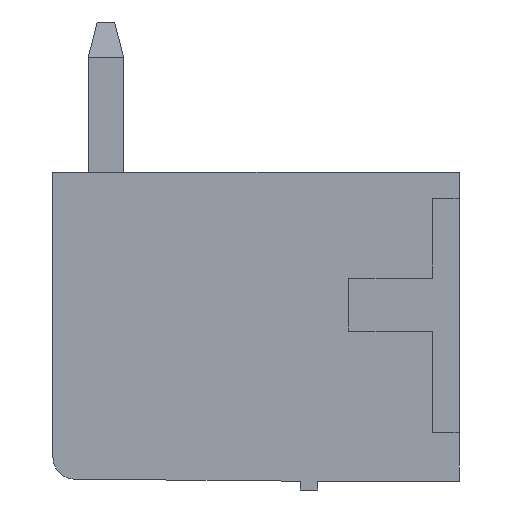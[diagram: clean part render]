
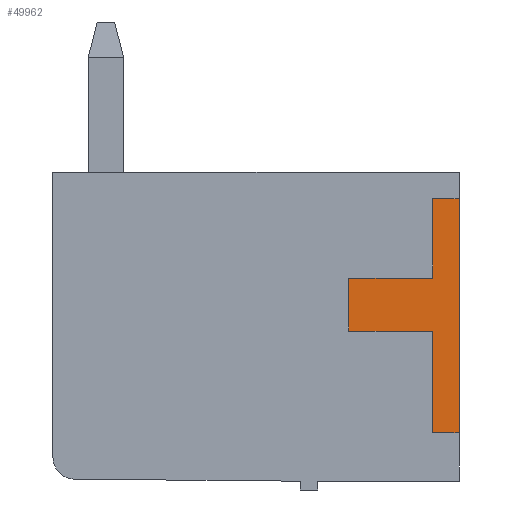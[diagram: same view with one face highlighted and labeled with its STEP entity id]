
A CAD part, left-side view. The second image highlights one B-rep face of the part: STEP entity #49962.
In plain terms, the highlighted planar face has unit normal (-1, 0, 0).
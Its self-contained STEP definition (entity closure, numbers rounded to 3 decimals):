
#2291 = PLANE('',#2292);
#2292 = AXIS2_PLACEMENT_3D('',#2293,#2294,#2295);
#2293 = CARTESIAN_POINT('',(0.,0.,7.));
#2294 = DIRECTION('',(0.,-1.,0.));
#2295 = DIRECTION('',(0.,0.,-1.));
#2780 = VERTEX_POINT('',#2781);
#2781 = CARTESIAN_POINT('',(-0.2,0.,1.1));
#2795 = PLANE('',#2796);
#2796 = AXIS2_PLACEMENT_3D('',#2797,#2798,#2799);
#2797 = CARTESIAN_POINT('',(0.,0.6,1.1));
#2798 = DIRECTION('',(0.,0.,-1.));
#2799 = DIRECTION('',(0.,-1.,0.));
#2807 = EDGE_CURVE('',#2780,#2808,#2810,.T.);
#2808 = VERTEX_POINT('',#2809);
#2809 = CARTESIAN_POINT('',(-0.2,0.,6.4));
#2810 = SURFACE_CURVE('',#2811,(#2815,#2822),.PCURVE_S1.);
#2811 = LINE('',#2812,#2813);
#2812 = CARTESIAN_POINT('',(-0.2,0.,1.1));
#2813 = VECTOR('',#2814,1.);
#2814 = DIRECTION('',(0.,0.,1.));
#2815 = PCURVE('',#2291,#2816);
#2816 = DEFINITIONAL_REPRESENTATION('',(#2817),#2821);
#2817 = LINE('',#2818,#2819);
#2818 = CARTESIAN_POINT('',(5.9,-0.2));
#2819 = VECTOR('',#2820,1.);
#2820 = DIRECTION('',(-1.,0.));
#2821 = ( GEOMETRIC_REPRESENTATION_CONTEXT(2) 
PARAMETRIC_REPRESENTATION_CONTEXT() REPRESENTATION_CONTEXT('2D SPACE',''
  ) );
#2822 = PCURVE('',#2823,#2828);
#2823 = PLANE('',#2824);
#2824 = AXIS2_PLACEMENT_3D('',#2825,#2826,#2827);
#2825 = CARTESIAN_POINT('',(-0.2,0.,0.));
#2826 = DIRECTION('',(-1.,0.,0.));
#2827 = DIRECTION('',(0.,0.,1.));
#2828 = DEFINITIONAL_REPRESENTATION('',(#2829),#2833);
#2829 = LINE('',#2830,#2831);
#2830 = CARTESIAN_POINT('',(1.1,0.));
#2831 = VECTOR('',#2832,1.);
#2832 = DIRECTION('',(1.,0.));
#2833 = ( GEOMETRIC_REPRESENTATION_CONTEXT(2) 
PARAMETRIC_REPRESENTATION_CONTEXT() REPRESENTATION_CONTEXT('2D SPACE',''
  ) );
#2851 = PLANE('',#2852);
#2852 = AXIS2_PLACEMENT_3D('',#2853,#2854,#2855);
#2853 = CARTESIAN_POINT('',(0.,0.,6.4));
#2854 = DIRECTION('',(0.,0.,1.));
#2855 = DIRECTION('',(0.,1.,0.));
#18312 = PLANE('',#18313);
#18313 = AXIS2_PLACEMENT_3D('',#18314,#18315,#18316);
#18314 = CARTESIAN_POINT('',(0.,0.6,6.4));
#18315 = DIRECTION('',(0.,1.,0.));
#18316 = DIRECTION('',(0.,0.,-1.));
#18340 = PLANE('',#18341);
#18341 = AXIS2_PLACEMENT_3D('',#18342,#18343,#18344);
#18342 = CARTESIAN_POINT('',(0.,0.6,4.6));
#18343 = DIRECTION('',(0.,0.,1.));
#18344 = DIRECTION('',(0.,1.,0.));
#18368 = PLANE('',#18369);
#18369 = AXIS2_PLACEMENT_3D('',#18370,#18371,#18372);
#18370 = CARTESIAN_POINT('',(0.,2.5,4.6));
#18371 = DIRECTION('',(0.,1.,0.));
#18372 = DIRECTION('',(0.,0.,-1.));
#18396 = PLANE('',#18397);
#18397 = AXIS2_PLACEMENT_3D('',#18398,#18399,#18400);
#18398 = CARTESIAN_POINT('',(0.,2.5,3.4));
#18399 = DIRECTION('',(0.,0.,-1.));
#18400 = DIRECTION('',(0.,-1.,0.));
#18424 = PLANE('',#18425);
#18425 = AXIS2_PLACEMENT_3D('',#18426,#18427,#18428);
#18426 = CARTESIAN_POINT('',(0.,0.6,3.4));
#18427 = DIRECTION('',(0.,1.,0.));
#18428 = DIRECTION('',(0.,0.,-1.));
#49919 = EDGE_CURVE('',#2808,#49920,#49922,.T.);
#49920 = VERTEX_POINT('',#49921);
#49921 = CARTESIAN_POINT('',(-0.2,0.6,6.4));
#49922 = SURFACE_CURVE('',#49923,(#49927,#49934),.PCURVE_S1.);
#49923 = LINE('',#49924,#49925);
#49924 = CARTESIAN_POINT('',(-0.2,0.,6.4));
#49925 = VECTOR('',#49926,1.);
#49926 = DIRECTION('',(0.,1.,0.));
#49927 = PCURVE('',#2851,#49928);
#49928 = DEFINITIONAL_REPRESENTATION('',(#49929),#49933);
#49929 = LINE('',#49930,#49931);
#49930 = CARTESIAN_POINT('',(0.,0.2));
#49931 = VECTOR('',#49932,1.);
#49932 = DIRECTION('',(1.,0.));
#49933 = ( GEOMETRIC_REPRESENTATION_CONTEXT(2) 
PARAMETRIC_REPRESENTATION_CONTEXT() REPRESENTATION_CONTEXT('2D SPACE',''
  ) );
#49934 = PCURVE('',#2823,#49935);
#49935 = DEFINITIONAL_REPRESENTATION('',(#49936),#49940);
#49936 = LINE('',#49937,#49938);
#49937 = CARTESIAN_POINT('',(6.4,0.));
#49938 = VECTOR('',#49939,1.);
#49939 = DIRECTION('',(0.,1.));
#49940 = ( GEOMETRIC_REPRESENTATION_CONTEXT(2) 
PARAMETRIC_REPRESENTATION_CONTEXT() REPRESENTATION_CONTEXT('2D SPACE',''
  ) );
#49962 = ADVANCED_FACE('',(#49963),#2823,.T.);
#49963 = FACE_BOUND('',#49964,.F.);
#49964 = EDGE_LOOP('',(#49965,#49966,#49967,#49990,#50013,#50036,#50059,
    #50082));
#49965 = ORIENTED_EDGE('',*,*,#49919,.F.);
#49966 = ORIENTED_EDGE('',*,*,#2807,.F.);
#49967 = ORIENTED_EDGE('',*,*,#49968,.F.);
#49968 = EDGE_CURVE('',#49969,#2780,#49971,.T.);
#49969 = VERTEX_POINT('',#49970);
#49970 = CARTESIAN_POINT('',(-0.2,0.6,1.1));
#49971 = SURFACE_CURVE('',#49972,(#49976,#49983),.PCURVE_S1.);
#49972 = LINE('',#49973,#49974);
#49973 = CARTESIAN_POINT('',(-0.2,0.6,1.1));
#49974 = VECTOR('',#49975,1.);
#49975 = DIRECTION('',(0.,-1.,0.));
#49976 = PCURVE('',#2823,#49977);
#49977 = DEFINITIONAL_REPRESENTATION('',(#49978),#49982);
#49978 = LINE('',#49979,#49980);
#49979 = CARTESIAN_POINT('',(1.1,0.6));
#49980 = VECTOR('',#49981,1.);
#49981 = DIRECTION('',(0.,-1.));
#49982 = ( GEOMETRIC_REPRESENTATION_CONTEXT(2) 
PARAMETRIC_REPRESENTATION_CONTEXT() REPRESENTATION_CONTEXT('2D SPACE',''
  ) );
#49983 = PCURVE('',#2795,#49984);
#49984 = DEFINITIONAL_REPRESENTATION('',(#49985),#49989);
#49985 = LINE('',#49986,#49987);
#49986 = CARTESIAN_POINT('',(0.,0.2));
#49987 = VECTOR('',#49988,1.);
#49988 = DIRECTION('',(1.,0.));
#49989 = ( GEOMETRIC_REPRESENTATION_CONTEXT(2) 
PARAMETRIC_REPRESENTATION_CONTEXT() REPRESENTATION_CONTEXT('2D SPACE',''
  ) );
#49990 = ORIENTED_EDGE('',*,*,#49991,.F.);
#49991 = EDGE_CURVE('',#49992,#49969,#49994,.T.);
#49992 = VERTEX_POINT('',#49993);
#49993 = CARTESIAN_POINT('',(-0.2,0.6,3.4));
#49994 = SURFACE_CURVE('',#49995,(#49999,#50006),.PCURVE_S1.);
#49995 = LINE('',#49996,#49997);
#49996 = CARTESIAN_POINT('',(-0.2,0.6,3.4));
#49997 = VECTOR('',#49998,1.);
#49998 = DIRECTION('',(0.,0.,-1.));
#49999 = PCURVE('',#2823,#50000);
#50000 = DEFINITIONAL_REPRESENTATION('',(#50001),#50005);
#50001 = LINE('',#50002,#50003);
#50002 = CARTESIAN_POINT('',(3.4,0.6));
#50003 = VECTOR('',#50004,1.);
#50004 = DIRECTION('',(-1.,0.));
#50005 = ( GEOMETRIC_REPRESENTATION_CONTEXT(2) 
PARAMETRIC_REPRESENTATION_CONTEXT() REPRESENTATION_CONTEXT('2D SPACE',''
  ) );
#50006 = PCURVE('',#18424,#50007);
#50007 = DEFINITIONAL_REPRESENTATION('',(#50008),#50012);
#50008 = LINE('',#50009,#50010);
#50009 = CARTESIAN_POINT('',(0.,0.2));
#50010 = VECTOR('',#50011,1.);
#50011 = DIRECTION('',(1.,0.));
#50012 = ( GEOMETRIC_REPRESENTATION_CONTEXT(2) 
PARAMETRIC_REPRESENTATION_CONTEXT() REPRESENTATION_CONTEXT('2D SPACE',''
  ) );
#50013 = ORIENTED_EDGE('',*,*,#50014,.F.);
#50014 = EDGE_CURVE('',#50015,#49992,#50017,.T.);
#50015 = VERTEX_POINT('',#50016);
#50016 = CARTESIAN_POINT('',(-0.2,2.5,3.4));
#50017 = SURFACE_CURVE('',#50018,(#50022,#50029),.PCURVE_S1.);
#50018 = LINE('',#50019,#50020);
#50019 = CARTESIAN_POINT('',(-0.2,2.5,3.4));
#50020 = VECTOR('',#50021,1.);
#50021 = DIRECTION('',(0.,-1.,0.));
#50022 = PCURVE('',#2823,#50023);
#50023 = DEFINITIONAL_REPRESENTATION('',(#50024),#50028);
#50024 = LINE('',#50025,#50026);
#50025 = CARTESIAN_POINT('',(3.4,2.5));
#50026 = VECTOR('',#50027,1.);
#50027 = DIRECTION('',(0.,-1.));
#50028 = ( GEOMETRIC_REPRESENTATION_CONTEXT(2) 
PARAMETRIC_REPRESENTATION_CONTEXT() REPRESENTATION_CONTEXT('2D SPACE',''
  ) );
#50029 = PCURVE('',#18396,#50030);
#50030 = DEFINITIONAL_REPRESENTATION('',(#50031),#50035);
#50031 = LINE('',#50032,#50033);
#50032 = CARTESIAN_POINT('',(0.,0.2));
#50033 = VECTOR('',#50034,1.);
#50034 = DIRECTION('',(1.,0.));
#50035 = ( GEOMETRIC_REPRESENTATION_CONTEXT(2) 
PARAMETRIC_REPRESENTATION_CONTEXT() REPRESENTATION_CONTEXT('2D SPACE',''
  ) );
#50036 = ORIENTED_EDGE('',*,*,#50037,.F.);
#50037 = EDGE_CURVE('',#50038,#50015,#50040,.T.);
#50038 = VERTEX_POINT('',#50039);
#50039 = CARTESIAN_POINT('',(-0.2,2.5,4.6));
#50040 = SURFACE_CURVE('',#50041,(#50045,#50052),.PCURVE_S1.);
#50041 = LINE('',#50042,#50043);
#50042 = CARTESIAN_POINT('',(-0.2,2.5,4.6));
#50043 = VECTOR('',#50044,1.);
#50044 = DIRECTION('',(0.,0.,-1.));
#50045 = PCURVE('',#2823,#50046);
#50046 = DEFINITIONAL_REPRESENTATION('',(#50047),#50051);
#50047 = LINE('',#50048,#50049);
#50048 = CARTESIAN_POINT('',(4.6,2.5));
#50049 = VECTOR('',#50050,1.);
#50050 = DIRECTION('',(-1.,0.));
#50051 = ( GEOMETRIC_REPRESENTATION_CONTEXT(2) 
PARAMETRIC_REPRESENTATION_CONTEXT() REPRESENTATION_CONTEXT('2D SPACE',''
  ) );
#50052 = PCURVE('',#18368,#50053);
#50053 = DEFINITIONAL_REPRESENTATION('',(#50054),#50058);
#50054 = LINE('',#50055,#50056);
#50055 = CARTESIAN_POINT('',(0.,0.2));
#50056 = VECTOR('',#50057,1.);
#50057 = DIRECTION('',(1.,0.));
#50058 = ( GEOMETRIC_REPRESENTATION_CONTEXT(2) 
PARAMETRIC_REPRESENTATION_CONTEXT() REPRESENTATION_CONTEXT('2D SPACE',''
  ) );
#50059 = ORIENTED_EDGE('',*,*,#50060,.F.);
#50060 = EDGE_CURVE('',#50061,#50038,#50063,.T.);
#50061 = VERTEX_POINT('',#50062);
#50062 = CARTESIAN_POINT('',(-0.2,0.6,4.6));
#50063 = SURFACE_CURVE('',#50064,(#50068,#50075),.PCURVE_S1.);
#50064 = LINE('',#50065,#50066);
#50065 = CARTESIAN_POINT('',(-0.2,0.6,4.6));
#50066 = VECTOR('',#50067,1.);
#50067 = DIRECTION('',(0.,1.,0.));
#50068 = PCURVE('',#2823,#50069);
#50069 = DEFINITIONAL_REPRESENTATION('',(#50070),#50074);
#50070 = LINE('',#50071,#50072);
#50071 = CARTESIAN_POINT('',(4.6,0.6));
#50072 = VECTOR('',#50073,1.);
#50073 = DIRECTION('',(0.,1.));
#50074 = ( GEOMETRIC_REPRESENTATION_CONTEXT(2) 
PARAMETRIC_REPRESENTATION_CONTEXT() REPRESENTATION_CONTEXT('2D SPACE',''
  ) );
#50075 = PCURVE('',#18340,#50076);
#50076 = DEFINITIONAL_REPRESENTATION('',(#50077),#50081);
#50077 = LINE('',#50078,#50079);
#50078 = CARTESIAN_POINT('',(0.,0.2));
#50079 = VECTOR('',#50080,1.);
#50080 = DIRECTION('',(1.,0.));
#50081 = ( GEOMETRIC_REPRESENTATION_CONTEXT(2) 
PARAMETRIC_REPRESENTATION_CONTEXT() REPRESENTATION_CONTEXT('2D SPACE',''
  ) );
#50082 = ORIENTED_EDGE('',*,*,#50083,.F.);
#50083 = EDGE_CURVE('',#49920,#50061,#50084,.T.);
#50084 = SURFACE_CURVE('',#50085,(#50089,#50096),.PCURVE_S1.);
#50085 = LINE('',#50086,#50087);
#50086 = CARTESIAN_POINT('',(-0.2,0.6,6.4));
#50087 = VECTOR('',#50088,1.);
#50088 = DIRECTION('',(0.,0.,-1.));
#50089 = PCURVE('',#2823,#50090);
#50090 = DEFINITIONAL_REPRESENTATION('',(#50091),#50095);
#50091 = LINE('',#50092,#50093);
#50092 = CARTESIAN_POINT('',(6.4,0.6));
#50093 = VECTOR('',#50094,1.);
#50094 = DIRECTION('',(-1.,0.));
#50095 = ( GEOMETRIC_REPRESENTATION_CONTEXT(2) 
PARAMETRIC_REPRESENTATION_CONTEXT() REPRESENTATION_CONTEXT('2D SPACE',''
  ) );
#50096 = PCURVE('',#18312,#50097);
#50097 = DEFINITIONAL_REPRESENTATION('',(#50098),#50102);
#50098 = LINE('',#50099,#50100);
#50099 = CARTESIAN_POINT('',(0.,0.2));
#50100 = VECTOR('',#50101,1.);
#50101 = DIRECTION('',(1.,0.));
#50102 = ( GEOMETRIC_REPRESENTATION_CONTEXT(2) 
PARAMETRIC_REPRESENTATION_CONTEXT() REPRESENTATION_CONTEXT('2D SPACE',''
  ) );
